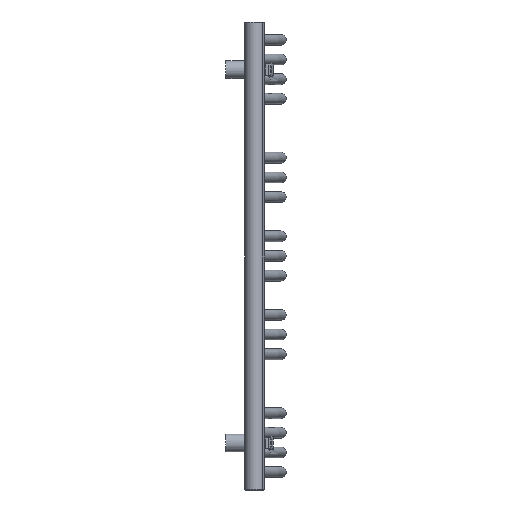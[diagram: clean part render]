
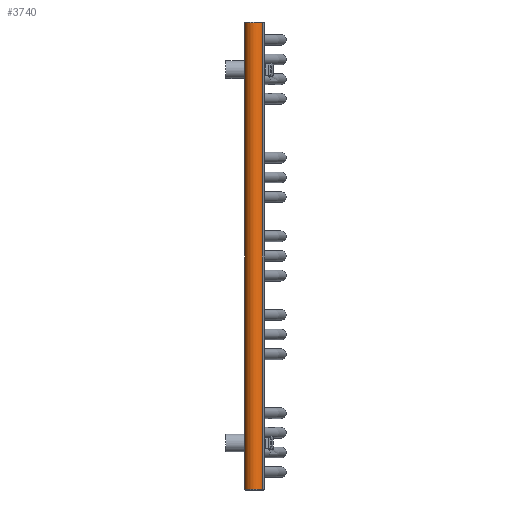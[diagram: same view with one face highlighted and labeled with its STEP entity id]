
A CAD part, left-side view. The second image highlights one B-rep face of the part: STEP entity #3740.
In plain terms, the highlighted cylindrical face has radius 15 mm (diameter 30 mm), a partial arc.
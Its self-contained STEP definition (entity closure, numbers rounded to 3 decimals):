
#3187=CARTESIAN_POINT('',(-280.488,60.49,1.5));
#3188=VERTEX_POINT('',#3187);
#3302=CARTESIAN_POINT('',(-289.512,31.88,1.5));
#3303=VERTEX_POINT('',#3302);
#3311=CARTESIAN_POINT('',(-285.,46.185,1.5));
#3312=DIRECTION('',(0.,0.,-1.0));
#3313=DIRECTION('',(-0.301,-0.954,0.));
#3314=AXIS2_PLACEMENT_3D('',#3311,#3312,#3313);
#3315=CIRCLE('',#3314,15.);
#3316=EDGE_CURVE('',#3303,#3188,#3315,.T.);
#3450=CARTESIAN_POINT('',(-289.512,31.88,784.5));
#3451=VERTEX_POINT('',#3450);
#3545=CARTESIAN_POINT('',(-280.488,60.49,784.5));
#3546=VERTEX_POINT('',#3545);
#3554=CARTESIAN_POINT('',(-285.,46.185,784.5));
#3555=DIRECTION('',(0.,0.,-1.0));
#3556=DIRECTION('',(-0.301,-0.954,0.));
#3557=AXIS2_PLACEMENT_3D('',#3554,#3555,#3556);
#3558=CIRCLE('',#3557,15.);
#3559=EDGE_CURVE('',#3451,#3546,#3558,.T.);
#3713=CARTESIAN_POINT('',(-289.512,31.88,1.5));
#3714=DIRECTION('',(0.0,0.0,1.0));
#3715=VECTOR('',#3714,783.);
#3716=LINE('',#3713,#3715);
#3717=EDGE_CURVE('',#3303,#3451,#3716,.T.);
#3724=CARTESIAN_POINT('',(-285.,46.185,1.5));
#3725=DIRECTION('',(0.,0.,1.0));
#3726=DIRECTION('',(-0.301,-0.954,0.));
#3727=AXIS2_PLACEMENT_3D('',#3724,#3725,#3726);
#3728=CYLINDRICAL_SURFACE('',#3727,15.);
#3729=ORIENTED_EDGE('',*,*,#3559,.T.);
#3730=CARTESIAN_POINT('',(-280.488,60.49,1.5));
#3731=DIRECTION('',(0.0,0.0,1.0));
#3732=VECTOR('',#3731,783.);
#3733=LINE('',#3730,#3732);
#3734=EDGE_CURVE('',#3188,#3546,#3733,.T.);
#3735=ORIENTED_EDGE('',*,*,#3734,.F.);
#3736=ORIENTED_EDGE('',*,*,#3316,.F.);
#3737=ORIENTED_EDGE('',*,*,#3717,.T.);
#3738=EDGE_LOOP('',(#3729,#3735,#3736,#3737));
#3739=FACE_OUTER_BOUND('',#3738,.T.);
#3740=ADVANCED_FACE('',(#3739),#3728,.T.);
